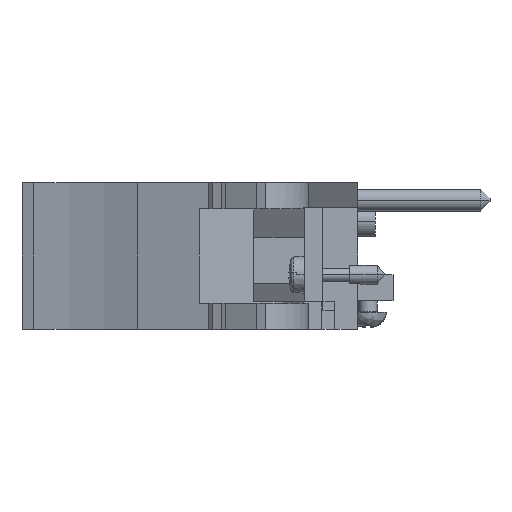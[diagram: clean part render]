
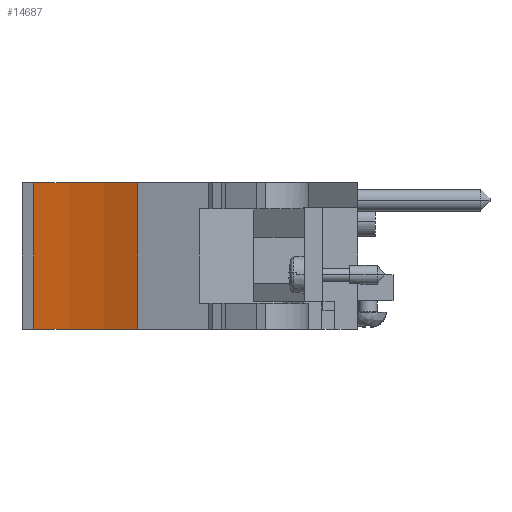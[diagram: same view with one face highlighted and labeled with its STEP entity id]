
A CAD part, front view. The second image highlights one B-rep face of the part: STEP entity #14687.
In plain terms, the highlighted cylindrical face has radius 51.46 mm (diameter 102.919 mm), a partial arc.
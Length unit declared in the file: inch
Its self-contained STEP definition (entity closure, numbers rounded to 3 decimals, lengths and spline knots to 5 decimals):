
#639=CARTESIAN_POINT('',(-1.97433,-5.95079,0.696));
#640=DIRECTION('',(0.,0.,1.));
#641=DIRECTION('',(0.435,0.9,0.));
#642=AXIS2_PLACEMENT_3D('',#639,#640,#641);
#1032=CARTESIAN_POINT('',(-1.97433,-5.95079,-0.092));
#1033=DIRECTION('',(0.,0.,1.));
#1034=DIRECTION('',(0.435,0.9,0.));
#1035=AXIS2_PLACEMENT_3D('',#1032,#1033,#1034);
#1266=DIRECTION('',(0.,0.,1.));
#1267=VECTOR('',#1266,0.788);
#1268=CARTESIAN_POINT('',(-1.651,-3.95079,-0.092));
#1269=LINE('',#1268,#1267);
#1274=DIRECTION('',(0.,0.,1.));
#1275=VECTOR('',#1274,0.788);
#1276=CARTESIAN_POINT('',(-1.09303,-4.12655,-0.092));
#1277=LINE('',#1276,#1275);
#11189=CARTESIAN_POINT('',(-1.09303,-4.12655,-0.092));
#11190=CARTESIAN_POINT('',(-1.651,-3.95079,-0.092));
#11191=VERTEX_POINT('',#11189);
#11192=VERTEX_POINT('',#11190);
#11193=CARTESIAN_POINT('',(-1.09303,-4.12655,0.696));
#11194=CARTESIAN_POINT('',(-1.651,-3.95079,0.696));
#11195=VERTEX_POINT('',#11193);
#11196=VERTEX_POINT('',#11194);
#14675=CARTESIAN_POINT('',(-1.97433,-5.95079,0.696));
#14676=DIRECTION('',(0.,0.,1.));
#14677=DIRECTION('',(0.,1.,0.));
#14678=AXIS2_PLACEMENT_3D('',#14675,#14676,#14677);
#14679=CYLINDRICAL_SURFACE('',#14678,2.02597);
#14680=ORIENTED_EDGE('',*,*,#14467,.T.);
#14681=ORIENTED_EDGE('',*,*,#14667,.T.);
#14682=ORIENTED_EDGE('',*,*,#14046,.F.);
#14684=ORIENTED_EDGE('',*,*,#14683,.F.);
#14685=EDGE_LOOP('',(#14680,#14681,#14682,#14684));
#14686=FACE_OUTER_BOUND('',#14685,.F.);
#14687=ADVANCED_FACE('',(#14686),#14679,.F.);
#643=CIRCLE('',#642,2.02597);
#1036=CIRCLE('',#1035,2.02597);
#14046=EDGE_CURVE('',#11195,#11196,#643,.T.);
#14467=EDGE_CURVE('',#11191,#11192,#1036,.T.);
#14667=EDGE_CURVE('',#11192,#11196,#1269,.T.);
#14683=EDGE_CURVE('',#11191,#11195,#1277,.T.);
